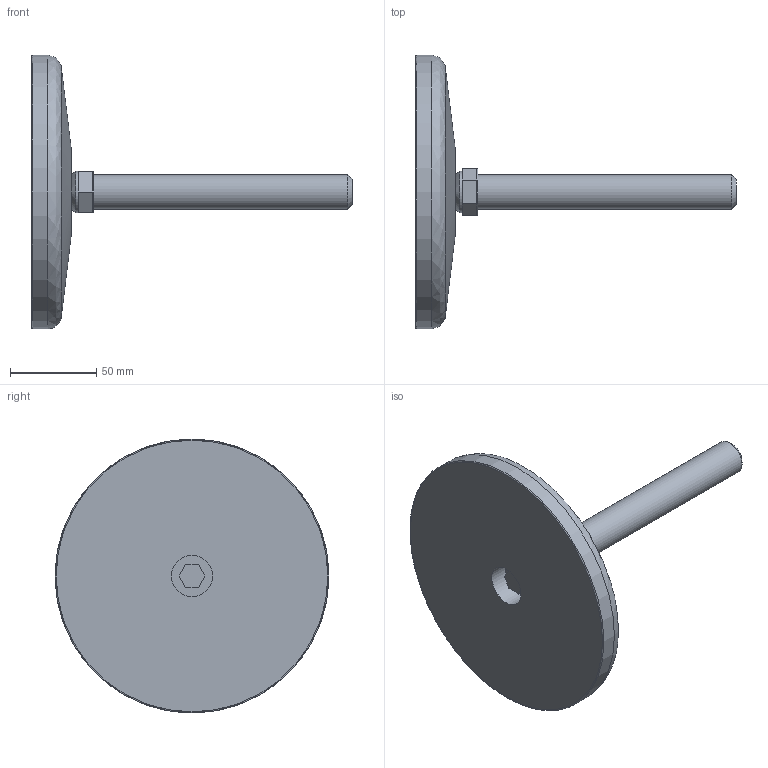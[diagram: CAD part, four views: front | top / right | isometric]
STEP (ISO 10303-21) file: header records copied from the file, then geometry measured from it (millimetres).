
FILE_DESCRIPTION(('STEP AP203'),'2;1');
FILE_NAME('11470.stp','2014-09-05T11:17:31',(''),(''),'2008.1.107','THINKDESIGN','');
FILE_SCHEMA(('CONFIG_CONTROL_DESIGN'));
Length unit declared in the file: millimetre
Bounding box: 186 x 159 x 159 mm (x, y, z)
Volume: 427972.9 mm3; surface area: 60990.7 mm2
Topology: 5 solids, 5 shells, 41 faces, 94 edges, 64 vertices
Faces by surface type: plane 23, cylinder 11, bspline 7
Full cylindrical faces by diameter (mm): 11 x1, 20 x1, 24 x2, 159 x1
Entity records: 1541 total; most frequent: CARTESIAN_POINT 512, DIRECTION 194, ORIENTED_EDGE 188, EDGE_CURVE 94, AXIS2_PLACEMENT_3D 72, VERTEX_POINT 64, VECTOR 50, LINE 50
